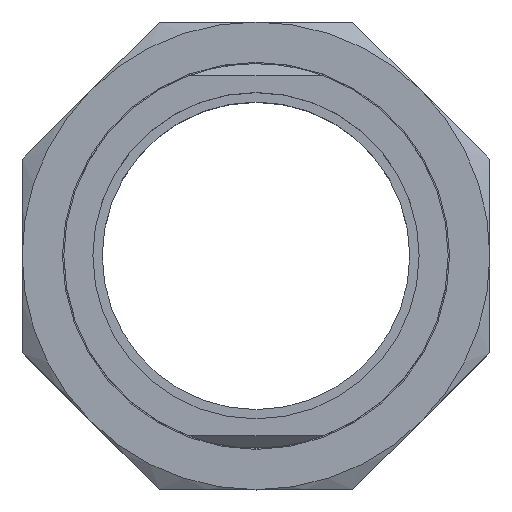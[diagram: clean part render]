
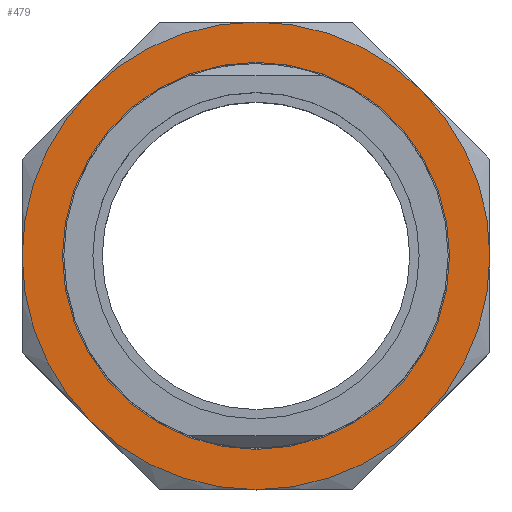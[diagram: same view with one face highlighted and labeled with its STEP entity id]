
A CAD part, top view. The second image highlights one B-rep face of the part: STEP entity #479.
In plain terms, the highlighted planar face has unit normal (0, 0, 1).
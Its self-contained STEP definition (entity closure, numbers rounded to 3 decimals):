
#213 = VERTEX_POINT ( 'NONE', #1313 ) ;
#221 = VERTEX_POINT ( 'NONE', #1309 ) ;
#444 = EDGE_CURVE ( 'NONE', #221, #445, #1291, .T. ) ;
#445 = VERTEX_POINT ( 'NONE', #1569 ) ;
#471 = ORIENTED_EDGE ( 'NONE', *, *, #604, .T. ) ;
#472 = ORIENTED_EDGE ( 'NONE', *, *, #609, .T. ) ;
#474 = EDGE_LOOP ( 'NONE', ( #586, #497, #471, #472, #500, #493, #501, #496 ) ) ;
#475 = ORIENTED_EDGE ( 'NONE', *, *, #477, .F. ) ;
#476 = ORIENTED_EDGE ( 'NONE', *, *, #444, .F. ) ;
#477 = EDGE_CURVE ( 'NONE', #445, #221, #1740, .T. ) ;
#478 = EDGE_LOOP ( 'NONE', ( #475, #476 ) ) ;
#479 = ADVANCED_FACE ( 'NONE', ( #1741, #1751 ), #1765, .F. ) ;
#493 = ORIENTED_EDGE ( 'NONE', *, *, #554, .T. ) ;
#496 = ORIENTED_EDGE ( 'NONE', *, *, #555, .T. ) ;
#497 = ORIENTED_EDGE ( 'NONE', *, *, #522, .T. ) ;
#500 = ORIENTED_EDGE ( 'NONE', *, *, #615, .T. ) ;
#501 = ORIENTED_EDGE ( 'NONE', *, *, #544, .T. ) ;
#522 = EDGE_CURVE ( 'NONE', #560, #557, #1630, .T. ) ;
#537 = VERTEX_POINT ( 'NONE', #1838 ) ;
#544 = EDGE_CURVE ( 'NONE', #537, #546, #1849, .T. ) ;
#546 = VERTEX_POINT ( 'NONE', #1842 ) ;
#554 = EDGE_CURVE ( 'NONE', #623, #537, #1877, .T. ) ;
#555 = EDGE_CURVE ( 'NONE', #546, #213, #1864, .T. ) ;
#557 = VERTEX_POINT ( 'NONE', #1878 ) ;
#560 = VERTEX_POINT ( 'NONE', #1886 ) ;
#581 = VERTEX_POINT ( 'NONE', #1914 ) ;
#582 = VERTEX_POINT ( 'NONE', #1915 ) ;
#586 = ORIENTED_EDGE ( 'NONE', *, *, #617, .T. ) ;
#604 = EDGE_CURVE ( 'NONE', #557, #581, #980, .T. ) ;
#609 = EDGE_CURVE ( 'NONE', #581, #582, #997, .T. ) ;
#615 = EDGE_CURVE ( 'NONE', #582, #623, #1004, .T. ) ;
#617 = EDGE_CURVE ( 'NONE', #213, #560, #1061, .T. ) ;
#623 = VERTEX_POINT ( 'NONE', #1031 ) ;
#977 = DIRECTION ( 'NONE',  ( 0., 0., 1. ) ) ;
#980 = CIRCLE ( 'NONE', #991, 43.5 ) ;
#981 = CARTESIAN_POINT ( 'NONE',  ( 0., 0., 15.5 ) ) ;
#988 = DIRECTION ( 'NONE',  ( 1., 0., 0. ) ) ;
#991 = AXIS2_PLACEMENT_3D ( 'NONE', #981, #977, #988 ) ;
#996 = AXIS2_PLACEMENT_3D ( 'NONE', #1010, #1009, #1008 ) ;
#997 = CIRCLE ( 'NONE', #996, 43.5 ) ;
#1001 = DIRECTION ( 'NONE',  ( 0., 0., 1. ) ) ;
#1002 = CARTESIAN_POINT ( 'NONE',  ( 0., 0., 15.5 ) ) ;
#1003 = AXIS2_PLACEMENT_3D ( 'NONE', #1002, #1001, #1063 ) ;
#1004 = CIRCLE ( 'NONE', #1003, 43.5 ) ;
#1008 = DIRECTION ( 'NONE',  ( 1., 0., 0. ) ) ;
#1009 = DIRECTION ( 'NONE',  ( 0., 0., 1. ) ) ;
#1010 = CARTESIAN_POINT ( 'NONE',  ( 0., 0., 15.5 ) ) ;
#1031 = CARTESIAN_POINT ( 'NONE',  ( -30.759, -30.759, 15.5 ) ) ;
#1054 = DIRECTION ( 'NONE',  ( 1., 0., 0. ) ) ;
#1055 = DIRECTION ( 'NONE',  ( 0., 0., 1. ) ) ;
#1056 = CARTESIAN_POINT ( 'NONE',  ( 0., 0., 15.5 ) ) ;
#1060 = AXIS2_PLACEMENT_3D ( 'NONE', #1056, #1055, #1054 ) ;
#1061 = CIRCLE ( 'NONE', #1060, 43.5 ) ;
#1063 = DIRECTION ( 'NONE',  ( 1., 0., 0. ) ) ;
#1291 = CIRCLE ( 'NONE', #1296, 36. ) ;
#1295 = CARTESIAN_POINT ( 'NONE',  ( 0., 0., 15.5 ) ) ;
#1296 = AXIS2_PLACEMENT_3D ( 'NONE', #1295, #1299, #1298 ) ;
#1298 = DIRECTION ( 'NONE',  ( 1., 0., 0. ) ) ;
#1299 = DIRECTION ( 'NONE',  ( 0., 0., 1. ) ) ;
#1309 = CARTESIAN_POINT ( 'NONE',  ( -36., 0., 15.5 ) ) ;
#1313 = CARTESIAN_POINT ( 'NONE',  ( 43.5, 0., 15.5 ) ) ;
#1569 = CARTESIAN_POINT ( 'NONE',  ( 36., 0., 15.5 ) ) ;
#1626 = DIRECTION ( 'NONE',  ( 1., 0., 0. ) ) ;
#1627 = DIRECTION ( 'NONE',  ( 0., 0., 1. ) ) ;
#1628 = CARTESIAN_POINT ( 'NONE',  ( 0., 0., 15.5 ) ) ;
#1629 = AXIS2_PLACEMENT_3D ( 'NONE', #1628, #1627, #1626 ) ;
#1630 = CIRCLE ( 'NONE', #1629, 43.5 ) ;
#1738 = CARTESIAN_POINT ( 'NONE',  ( 0., 0., 15.5 ) ) ;
#1739 = AXIS2_PLACEMENT_3D ( 'NONE', #1738, #1753, #1752 ) ;
#1740 = CIRCLE ( 'NONE', #1739, 36. ) ;
#1741 = FACE_BOUND ( 'NONE', #478, .T. ) ;
#1742 = DIRECTION ( 'NONE',  ( -1., 0., 0. ) ) ;
#1743 = DIRECTION ( 'NONE',  ( 0., 0., -1. ) ) ;
#1744 = CARTESIAN_POINT ( 'NONE',  ( 0., 43.5, 15.5 ) ) ;
#1750 = AXIS2_PLACEMENT_3D ( 'NONE', #1744, #1743, #1742 ) ;
#1751 = FACE_OUTER_BOUND ( 'NONE', #474, .T. ) ;
#1752 = DIRECTION ( 'NONE',  ( 1., 0., 0. ) ) ;
#1753 = DIRECTION ( 'NONE',  ( 0., 0., 1. ) ) ;
#1765 = PLANE ( 'NONE',  #1750 ) ;
#1834 = DIRECTION ( 'NONE',  ( 0., 0., 1. ) ) ;
#1835 = AXIS2_PLACEMENT_3D ( 'NONE', #1841, #1834, #1844 ) ;
#1838 = CARTESIAN_POINT ( 'NONE',  ( 0., -43.5, 15.5 ) ) ;
#1841 = CARTESIAN_POINT ( 'NONE',  ( 0., 0., 15.5 ) ) ;
#1842 = CARTESIAN_POINT ( 'NONE',  ( 30.759, -30.759, 15.5 ) ) ;
#1844 = DIRECTION ( 'NONE',  ( 1., 0., 0. ) ) ;
#1849 = CIRCLE ( 'NONE', #1835, 43.5 ) ;
#1864 = CIRCLE ( 'NONE', #1866, 43.5 ) ;
#1865 = CARTESIAN_POINT ( 'NONE',  ( 0., 0., 15.5 ) ) ;
#1866 = AXIS2_PLACEMENT_3D ( 'NONE', #1865, #1867, #1868 ) ;
#1867 = DIRECTION ( 'NONE',  ( 0., 0., 1. ) ) ;
#1868 = DIRECTION ( 'NONE',  ( 1., 0., 0. ) ) ;
#1873 = DIRECTION ( 'NONE',  ( 1., 0., 0. ) ) ;
#1874 = DIRECTION ( 'NONE',  ( 0., 0., 1. ) ) ;
#1875 = CARTESIAN_POINT ( 'NONE',  ( 0., 0., 15.5 ) ) ;
#1876 = AXIS2_PLACEMENT_3D ( 'NONE', #1875, #1874, #1873 ) ;
#1877 = CIRCLE ( 'NONE', #1876, 43.5 ) ;
#1878 = CARTESIAN_POINT ( 'NONE',  ( 0., 43.5, 15.5 ) ) ;
#1886 = CARTESIAN_POINT ( 'NONE',  ( 30.759, 30.759, 15.5 ) ) ;
#1914 = CARTESIAN_POINT ( 'NONE',  ( -30.759, 30.759, 15.5 ) ) ;
#1915 = CARTESIAN_POINT ( 'NONE',  ( -43.5, 0., 15.5 ) ) ;
